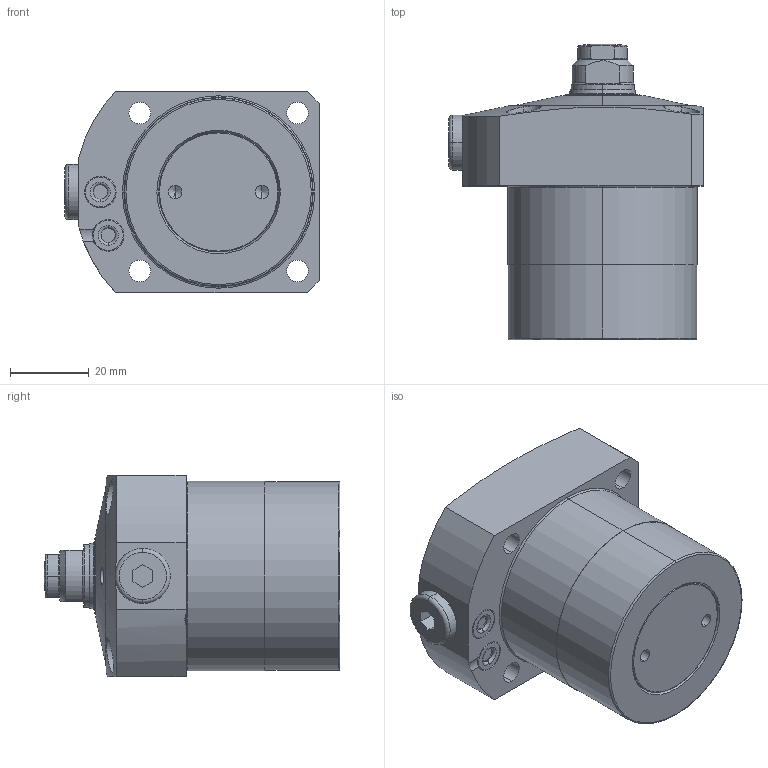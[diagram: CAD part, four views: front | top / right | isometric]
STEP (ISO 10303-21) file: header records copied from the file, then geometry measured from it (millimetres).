
FILE_DESCRIPTION(/* description */ (''),/* implementation_level */ '2;1');
FILE_NAME(/* name */ 'KFSC48.stp',/* time_stamp */ '2026-08-21T16:13:14+08:00',/* author */ (''),/* organization */ (''),/* preprocessor_version */ 'ST-DEVELOPER v16.7',/* originating_system */ 'SIEMENS PLM Software NX 12.0',/* authorisation */ '');
FILE_SCHEMA (('AUTOMOTIVE_DESIGN { 1 0 10303 214 3 1 1 1 }'));
Length unit declared in the file: millimetre
Products named in the file (8): XLC-M10_Oring5216; XLC-M10_contactbolt382; KFSC48-01; KFSC48-04; P5-2; KFSC48-02; KFSC48-03; KFSC48_stp
Assembly tree (8 placements, depth 3):
  KFSC48_stp
    KFSC48-03
      XLC-M10_contactbolt382
      XLC-M10_Oring5216
    KFSC48-02
    P5-2  x2
    KFSC48-04
    KFSC48-01
Bounding box: 64.5 x 75 x 51 mm (x, y, z)
Volume: 130699.5 mm3; surface area: 21847 mm2
Topology: 7 solids, 7 shells, 236 faces, 530 edges, 320 vertices
Faces by surface type: cylinder 79, torus 60, plane 54, cone 41, sphere 2
Entity records: 6848 total; most frequent: CARTESIAN_POINT 1430, DIRECTION 1212, ORIENTED_EDGE 996, AXIS2_PLACEMENT_3D 526, EDGE_CURVE 498, VERTEX_POINT 306, CIRCLE 293, EDGE_LOOP 256
